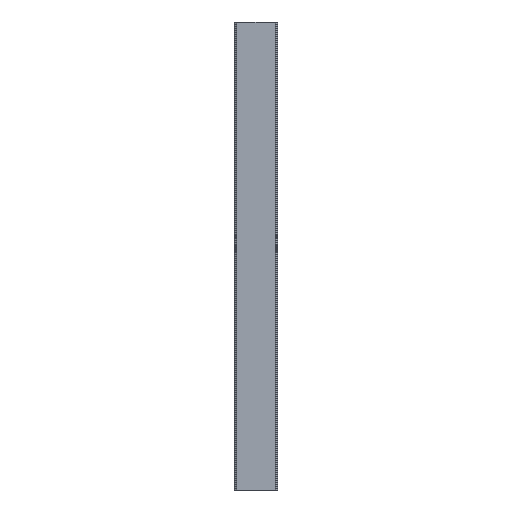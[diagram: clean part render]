
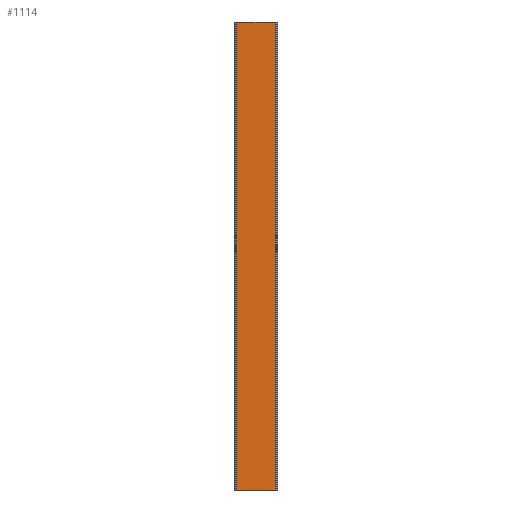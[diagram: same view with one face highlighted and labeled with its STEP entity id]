
A CAD part, front view. The second image highlights one B-rep face of the part: STEP entity #1114.
In plain terms, the highlighted planar face has unit normal (0, -1, 0).
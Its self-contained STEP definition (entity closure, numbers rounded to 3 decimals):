
#5 = LINE ( 'NONE', #204, #906 ) ;
#55 = ORIENTED_EDGE ( 'NONE', *, *, #1165, .T. ) ;
#67 = CARTESIAN_POINT ( 'NONE',  ( -4.095, 0., 50. ) ) ;
#104 = PLANE ( 'NONE',  #842 ) ;
#164 = CARTESIAN_POINT ( 'NONE',  ( 4.095, 0., -50. ) ) ;
#199 = FACE_OUTER_BOUND ( 'NONE', #558, .T. ) ;
#203 = CARTESIAN_POINT ( 'NONE',  ( 4.095, 0., 50. ) ) ;
#204 = CARTESIAN_POINT ( 'NONE',  ( -4.095, 0., -50. ) ) ;
#235 = DIRECTION ( 'NONE',  ( 1., 0., 0. ) ) ;
#247 = EDGE_CURVE ( 'NONE', #888, #885, #1120, .T. ) ;
#280 = LINE ( 'NONE', #1239, #777 ) ;
#365 = ORIENTED_EDGE ( 'NONE', *, *, #660, .F. ) ;
#443 = ORIENTED_EDGE ( 'NONE', *, *, #1332, .F. ) ;
#464 = VERTEX_POINT ( 'NONE', #1127 ) ;
#558 = EDGE_LOOP ( 'NONE', ( #443, #365, #55, #1012 ) ) ;
#582 = DIRECTION ( 'NONE',  ( 0., 0., 1. ) ) ;
#617 = DIRECTION ( 'NONE',  ( 0., -1., 0. ) ) ;
#628 = DIRECTION ( 'NONE',  ( 0., 0., -1. ) ) ;
#660 = EDGE_CURVE ( 'NONE', #464, #1372, #5, .T. ) ;
#760 = CARTESIAN_POINT ( 'NONE',  ( -4.095, 0., -50. ) ) ;
#777 = VECTOR ( 'NONE', #938, 1000. ) ;
#842 = AXIS2_PLACEMENT_3D ( 'NONE', #952, #617, #628 ) ;
#885 = VERTEX_POINT ( 'NONE', #203 ) ;
#888 = VERTEX_POINT ( 'NONE', #1217 ) ;
#906 = VECTOR ( 'NONE', #957, 1000. ) ;
#938 = DIRECTION ( 'NONE',  ( 1., 0., 0. ) ) ;
#952 = CARTESIAN_POINT ( 'NONE',  ( -4.095, 0., -50. ) ) ;
#957 = DIRECTION ( 'NONE',  ( 0., 0., 1. ) ) ;
#1012 = ORIENTED_EDGE ( 'NONE', *, *, #247, .T. ) ;
#1105 = VECTOR ( 'NONE', #235, 1000. ) ;
#1114 = ADVANCED_FACE ( 'NONE', ( #199 ), #104, .T. ) ;
#1120 = LINE ( 'NONE', #164, #1210 ) ;
#1127 = CARTESIAN_POINT ( 'NONE',  ( -4.095, 0., -50. ) ) ;
#1165 = EDGE_CURVE ( 'NONE', #464, #888, #1194, .T. ) ;
#1194 = LINE ( 'NONE', #760, #1105 ) ;
#1210 = VECTOR ( 'NONE', #582, 1000. ) ;
#1217 = CARTESIAN_POINT ( 'NONE',  ( 4.095, 0., -50. ) ) ;
#1239 = CARTESIAN_POINT ( 'NONE',  ( -4.095, 0., 50. ) ) ;
#1332 = EDGE_CURVE ( 'NONE', #1372, #885, #280, .T. ) ;
#1372 = VERTEX_POINT ( 'NONE', #67 ) ;
